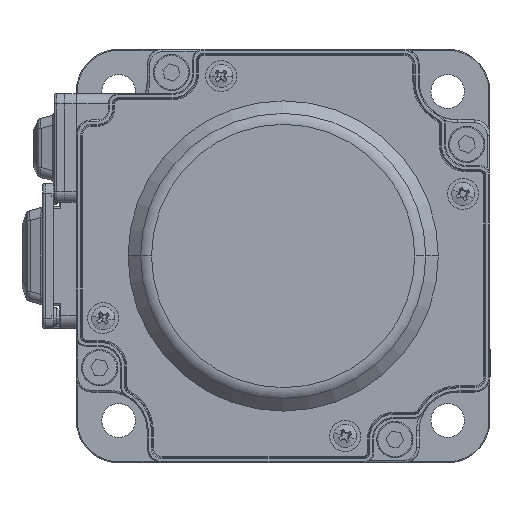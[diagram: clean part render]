
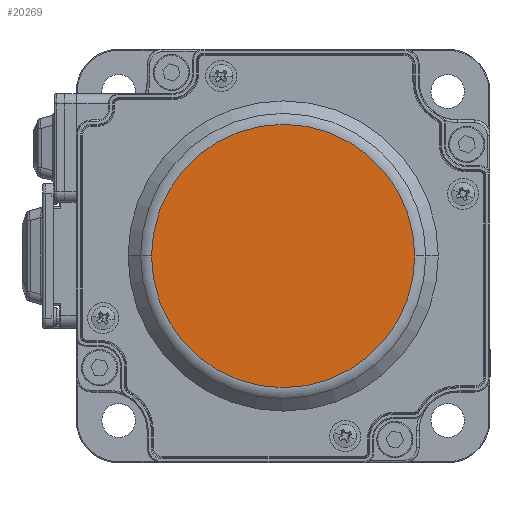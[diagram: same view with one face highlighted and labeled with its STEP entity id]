
A CAD part, left-side view. The second image highlights one B-rep face of the part: STEP entity #20269.
In plain terms, the highlighted planar face has unit normal (-1, 0, 0).
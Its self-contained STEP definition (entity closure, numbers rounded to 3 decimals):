
#2785 = EDGE_CURVE ( 'NONE', #42040, #25617, #30359, .T. ) ;
#12599 = PLANE ( 'NONE',  #30592 ) ;
#13213 = CARTESIAN_POINT ( 'NONE',  ( -55.428, 25.457, 61.985 ) ) ;
#14102 = CARTESIAN_POINT ( 'NONE',  ( -55.428, 0., 61.985 ) ) ;
#16358 = CARTESIAN_POINT ( 'NONE',  ( -55.428, -25.457, 61.985 ) ) ;
#16797 = DIRECTION ( 'NONE',  ( 1., 0., 0. ) ) ;
#17087 = DIRECTION ( 'NONE',  ( -1., 0., 0. ) ) ;
#19199 = FACE_OUTER_BOUND ( 'NONE', #41041, .T. ) ;
#19681 = ORIENTED_EDGE ( 'NONE', *, *, #24309, .T. ) ;
#19864 = AXIS2_PLACEMENT_3D ( 'NONE', #20373, #17087, #27816 ) ;
#20062 = DIRECTION ( 'NONE',  ( 0., 1., 0. ) ) ;
#20269 = ADVANCED_FACE ( 'NONE', ( #19199 ), #12599, .F. ) ;
#20373 = CARTESIAN_POINT ( 'NONE',  ( -55.428, 0., 61.985 ) ) ;
#21127 = DIRECTION ( 'NONE',  ( 0., 1., 0. ) ) ;
#24309 = EDGE_CURVE ( 'NONE', #25617, #42040, #35166, .T. ) ;
#25617 = VERTEX_POINT ( 'NONE', #13213 ) ;
#27816 = DIRECTION ( 'NONE',  ( 0., 1., 0. ) ) ;
#30219 = AXIS2_PLACEMENT_3D ( 'NONE', #14102, #37626, #21127 ) ;
#30359 = CIRCLE ( 'NONE', #19864, 25.457 ) ;
#30592 = AXIS2_PLACEMENT_3D ( 'NONE', #40334, #16797, #20062 ) ;
#35166 = CIRCLE ( 'NONE', #30219, 25.457 ) ;
#37626 = DIRECTION ( 'NONE',  ( -1., 0., 0. ) ) ;
#40334 = CARTESIAN_POINT ( 'NONE',  ( -55.428, 0., 61.985 ) ) ;
#41041 = EDGE_LOOP ( 'NONE', ( #19681, #42270 ) ) ;
#42040 = VERTEX_POINT ( 'NONE', #16358 ) ;
#42270 = ORIENTED_EDGE ( 'NONE', *, *, #2785, .T. ) ;
